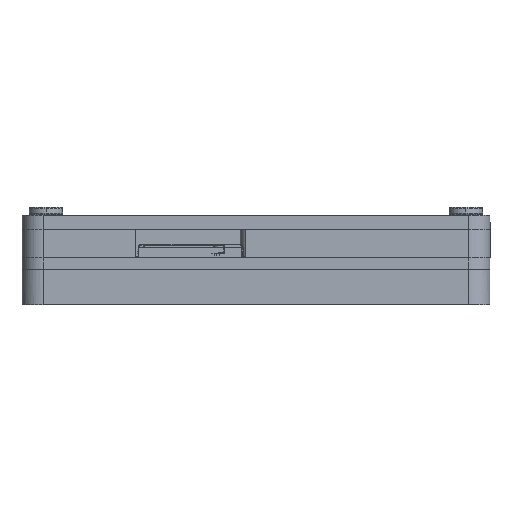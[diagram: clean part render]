
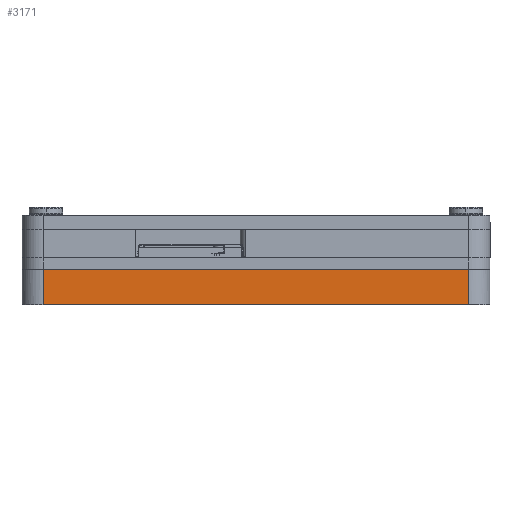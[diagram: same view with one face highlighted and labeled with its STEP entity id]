
A CAD part, left-side view. The second image highlights one B-rep face of the part: STEP entity #3171.
In plain terms, the highlighted planar face has unit normal (-1, 0, 0).
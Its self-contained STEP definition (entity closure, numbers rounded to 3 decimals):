
#3171=ADVANCED_FACE('',(#8547),#79048,.T.);
#8547=FACE_OUTER_BOUND('',#13889,.T.);
#13889=EDGE_LOOP('',(#28765,#28766,#28767,#28768));
#28765=ORIENTED_EDGE('',*,*,#48396,.T.);
#28766=ORIENTED_EDGE('',*,*,#48420,.T.);
#28767=ORIENTED_EDGE('',*,*,#48397,.T.);
#28768=ORIENTED_EDGE('',*,*,#48398,.T.);
#48396=EDGE_CURVE('',#71873,#71868,#60182,.T.);
#48397=EDGE_CURVE('',#71861,#71874,#60183,.T.);
#48398=EDGE_CURVE('',#71874,#71873,#60184,.T.);
#48420=EDGE_CURVE('',#71868,#71861,#60202,.T.);
#60182=B_SPLINE_CURVE_WITH_KNOTS('',1,(#118067,#118068),.UNSPECIFIED.,.F.,
 .F.,(2,2),(-236.7,-233.),.UNSPECIFIED.);
#60183=B_SPLINE_CURVE_WITH_KNOTS('',1,(#118069,#118070),.UNSPECIFIED.,.F.,
 .F.,(2,2),(0.,3.7),.UNSPECIFIED.);
#60184=B_SPLINE_CURVE_WITH_KNOTS('',1,(#118071,#118072),.UNSPECIFIED.,.F.,
 .F.,(2,2),(3.7,63.7),.UNSPECIFIED.);
#60202=B_SPLINE_CURVE_WITH_KNOTS('',1,(#118119,#118120,#118121,#118122,
#118123,#118124),.UNSPECIFIED.,.F.,.F.,(2,1,1,1,1,2),(-233.,-207.,-205.498,
-203.498,-202.,-173.),.UNSPECIFIED.);
#71861=VERTEX_POINT('',#117961);
#71868=VERTEX_POINT('',#117968);
#71873=VERTEX_POINT('',#117973);
#71874=VERTEX_POINT('',#117974);
#79048=PLANE('',#82009);
#82009=AXIS2_PLACEMENT_3D('',#117936,#86036,$);
#86036=DIRECTION('',(-1.,0.,0.));
#117936=CARTESIAN_POINT('',(-53.,-30.6,-4.034));
#117961=CARTESIAN_POINT('',(-53.,30.,-4.084));
#117968=CARTESIAN_POINT('',(-53.,-30.,-4.084));
#117973=CARTESIAN_POINT('',(-53.,-30.,-9.084));
#117974=CARTESIAN_POINT('',(-53.,30.,-9.084));
#118067=CARTESIAN_POINT('',(-53.,-30.,-9.084));
#118068=CARTESIAN_POINT('',(-53.,-30.,-4.084));
#118069=CARTESIAN_POINT('',(-53.,30.,-4.084));
#118070=CARTESIAN_POINT('',(-53.,30.,-9.084));
#118071=CARTESIAN_POINT('',(-53.,30.,-9.084));
#118072=CARTESIAN_POINT('',(-53.,-30.,-9.084));
#118119=CARTESIAN_POINT('',(-53.,-30.,-4.084));
#118120=CARTESIAN_POINT('',(-53.,-4.,-4.084));
#118121=CARTESIAN_POINT('',(-53.,-2.498,-4.084));
#118122=CARTESIAN_POINT('',(-53.,-0.498,-4.084));
#118123=CARTESIAN_POINT('',(-53.,1.,-4.084));
#118124=CARTESIAN_POINT('',(-53.,30.,-4.084));
